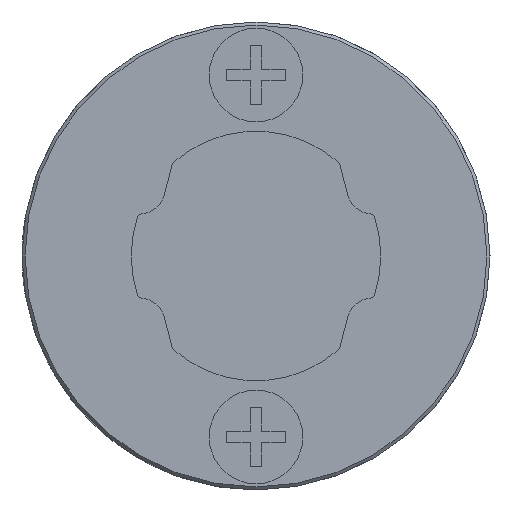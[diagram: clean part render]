
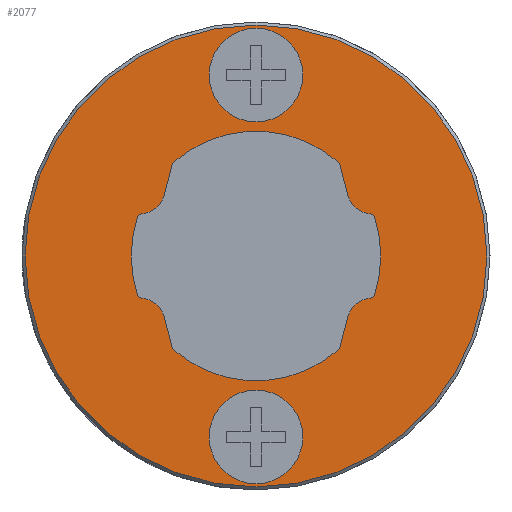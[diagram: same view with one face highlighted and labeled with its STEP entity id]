
A CAD part, left-side view. The second image highlights one B-rep face of the part: STEP entity #2077.
In plain terms, the highlighted planar face has unit normal (-1, 0, 0).
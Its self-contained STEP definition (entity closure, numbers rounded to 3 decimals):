
#50=PLANE('',#2275);
#168=LINE('',#3251,#378);
#169=LINE('',#3263,#379);
#170=LINE('',#3271,#380);
#171=LINE('',#3283,#381);
#378=VECTOR('',#2626,1000.);
#379=VECTOR('',#2637,1000.);
#380=VECTOR('',#2644,1000.);
#381=VECTOR('',#2655,1000.);
#701=ORIENTED_EDGE('',*,*,#1241,.F.);
#702=ORIENTED_EDGE('',*,*,#1242,.F.);
#703=ORIENTED_EDGE('',*,*,#1243,.F.);
#704=ORIENTED_EDGE('',*,*,#1244,.F.);
#705=ORIENTED_EDGE('',*,*,#1245,.F.);
#706=ORIENTED_EDGE('',*,*,#1246,.F.);
#707=ORIENTED_EDGE('',*,*,#1247,.T.);
#708=ORIENTED_EDGE('',*,*,#1248,.F.);
#709=ORIENTED_EDGE('',*,*,#1249,.F.);
#710=ORIENTED_EDGE('',*,*,#1250,.F.);
#711=ORIENTED_EDGE('',*,*,#1251,.T.);
#712=ORIENTED_EDGE('',*,*,#1252,.F.);
#713=ORIENTED_EDGE('',*,*,#1253,.F.);
#714=ORIENTED_EDGE('',*,*,#1254,.F.);
#715=ORIENTED_EDGE('',*,*,#1255,.F.);
#716=ORIENTED_EDGE('',*,*,#1256,.F.);
#717=ORIENTED_EDGE('',*,*,#1257,.T.);
#718=ORIENTED_EDGE('',*,*,#1258,.F.);
#719=ORIENTED_EDGE('',*,*,#1259,.F.);
#720=ORIENTED_EDGE('',*,*,#1260,.F.);
#721=ORIENTED_EDGE('',*,*,#1261,.T.);
#722=ORIENTED_EDGE('',*,*,#1262,.F.);
#723=ORIENTED_EDGE('',*,*,#1263,.F.);
#1241=EDGE_CURVE('',#1521,#1521,#1691,.T.);
#1242=EDGE_CURVE('',#1522,#1522,#1692,.F.);
#1243=EDGE_CURVE('',#1523,#1523,#1693,.F.);
#1244=EDGE_CURVE('',#1524,#1525,#1694,.F.);
#1245=EDGE_CURVE('',#1526,#1524,#1695,.F.);
#1246=EDGE_CURVE('',#1527,#1526,#168,.T.);
#1247=EDGE_CURVE('',#1527,#1528,#1696,.F.);
#1248=EDGE_CURVE('',#1529,#1528,#1697,.F.);
#1249=EDGE_CURVE('',#1530,#1529,#1698,.F.);
#1250=EDGE_CURVE('',#1531,#1530,#1699,.F.);
#1251=EDGE_CURVE('',#1531,#1532,#1700,.F.);
#1252=EDGE_CURVE('',#1533,#1532,#169,.T.);
#1253=EDGE_CURVE('',#1534,#1533,#1701,.F.);
#1254=EDGE_CURVE('',#1535,#1534,#1702,.F.);
#1255=EDGE_CURVE('',#1536,#1535,#1703,.F.);
#1256=EDGE_CURVE('',#1537,#1536,#170,.T.);
#1257=EDGE_CURVE('',#1537,#1538,#1704,.F.);
#1258=EDGE_CURVE('',#1539,#1538,#1705,.F.);
#1259=EDGE_CURVE('',#1540,#1539,#1706,.F.);
#1260=EDGE_CURVE('',#1541,#1540,#1707,.F.);
#1261=EDGE_CURVE('',#1541,#1542,#1708,.F.);
#1262=EDGE_CURVE('',#1543,#1542,#171,.T.);
#1263=EDGE_CURVE('',#1525,#1543,#1709,.F.);
#1521=VERTEX_POINT('',#3241);
#1522=VERTEX_POINT('',#3243);
#1523=VERTEX_POINT('',#3245);
#1524=VERTEX_POINT('',#3247);
#1525=VERTEX_POINT('',#3248);
#1526=VERTEX_POINT('',#3250);
#1527=VERTEX_POINT('',#3252);
#1528=VERTEX_POINT('',#3254);
#1529=VERTEX_POINT('',#3256);
#1530=VERTEX_POINT('',#3258);
#1531=VERTEX_POINT('',#3260);
#1532=VERTEX_POINT('',#3262);
#1533=VERTEX_POINT('',#3264);
#1534=VERTEX_POINT('',#3266);
#1535=VERTEX_POINT('',#3268);
#1536=VERTEX_POINT('',#3270);
#1537=VERTEX_POINT('',#3272);
#1538=VERTEX_POINT('',#3274);
#1539=VERTEX_POINT('',#3276);
#1540=VERTEX_POINT('',#3278);
#1541=VERTEX_POINT('',#3280);
#1542=VERTEX_POINT('',#3282);
#1543=VERTEX_POINT('',#3284);
#1691=CIRCLE('',#2276,7.4);
#1692=CIRCLE('',#2277,1.5);
#1693=CIRCLE('',#2278,1.5);
#1694=CIRCLE('',#2279,4.);
#1695=CIRCLE('',#2280,0.2);
#1696=CIRCLE('',#2281,0.8);
#1697=CIRCLE('',#2282,0.15);
#1698=CIRCLE('',#2283,4.);
#1699=CIRCLE('',#2284,0.15);
#1700=CIRCLE('',#2285,0.8);
#1701=CIRCLE('',#2286,0.2);
#1702=CIRCLE('',#2287,4.);
#1703=CIRCLE('',#2288,0.2);
#1704=CIRCLE('',#2289,0.8);
#1705=CIRCLE('',#2290,0.15);
#1706=CIRCLE('',#2291,4.);
#1707=CIRCLE('',#2292,0.15);
#1708=CIRCLE('',#2293,0.8);
#1709=CIRCLE('',#2294,0.2);
#1750=EDGE_LOOP('',(#701));
#1751=EDGE_LOOP('',(#702));
#1752=EDGE_LOOP('',(#703));
#1753=EDGE_LOOP('',(#704,#705,#706,#707,#708,#709,#710,#711,#712,#713,#714,
#715,#716,#717,#718,#719,#720,#721,#722,#723));
#1894=FACE_BOUND('',#1750,.T.);
#1895=FACE_BOUND('',#1751,.T.);
#1896=FACE_BOUND('',#1752,.T.);
#1897=FACE_BOUND('',#1753,.T.);
#2077=ADVANCED_FACE('',(#1894,#1895,#1896,#1897),#50,.F.);
#2275=AXIS2_PLACEMENT_3D('',#3239,#2614,#2615);
#2276=AXIS2_PLACEMENT_3D('',#3240,#2616,#2617);
#2277=AXIS2_PLACEMENT_3D('',#3242,#2618,#2619);
#2278=AXIS2_PLACEMENT_3D('',#3244,#2620,#2621);
#2279=AXIS2_PLACEMENT_3D('',#3246,#2622,#2623);
#2280=AXIS2_PLACEMENT_3D('',#3249,#2624,#2625);
#2281=AXIS2_PLACEMENT_3D('',#3253,#2627,#2628);
#2282=AXIS2_PLACEMENT_3D('',#3255,#2629,#2630);
#2283=AXIS2_PLACEMENT_3D('',#3257,#2631,#2632);
#2284=AXIS2_PLACEMENT_3D('',#3259,#2633,#2634);
#2285=AXIS2_PLACEMENT_3D('',#3261,#2635,#2636);
#2286=AXIS2_PLACEMENT_3D('',#3265,#2638,#2639);
#2287=AXIS2_PLACEMENT_3D('',#3267,#2640,#2641);
#2288=AXIS2_PLACEMENT_3D('',#3269,#2642,#2643);
#2289=AXIS2_PLACEMENT_3D('',#3273,#2645,#2646);
#2290=AXIS2_PLACEMENT_3D('',#3275,#2647,#2648);
#2291=AXIS2_PLACEMENT_3D('',#3277,#2649,#2650);
#2292=AXIS2_PLACEMENT_3D('',#3279,#2651,#2652);
#2293=AXIS2_PLACEMENT_3D('',#3281,#2653,#2654);
#2294=AXIS2_PLACEMENT_3D('',#3285,#2656,#2657);
#2614=DIRECTION('',(1.,0.,0.));
#2615=DIRECTION('',(0.,0.,-1.));
#2616=DIRECTION('',(1.,0.,0.));
#2617=DIRECTION('',(0.,0.,-1.));
#2618=DIRECTION('',(1.,0.,0.));
#2619=DIRECTION('',(0.,0.,-1.));
#2620=DIRECTION('',(1.,0.,0.));
#2621=DIRECTION('',(0.,0.,-1.));
#2622=DIRECTION('',(1.,0.,0.));
#2623=DIRECTION('',(0.,0.,-1.));
#2624=DIRECTION('',(1.,0.,0.));
#2625=DIRECTION('',(0.,0.,-1.));
#2626=DIRECTION('',(0.,0.253,0.967));
#2627=DIRECTION('',(1.,0.,0.));
#2628=DIRECTION('',(0.,0.,-1.));
#2629=DIRECTION('',(1.,0.,0.));
#2630=DIRECTION('',(0.,0.,-1.));
#2631=DIRECTION('',(1.,0.,0.));
#2632=DIRECTION('',(0.,0.,-1.));
#2633=DIRECTION('',(1.,0.,0.));
#2634=DIRECTION('',(0.,0.,-1.));
#2635=DIRECTION('',(1.,0.,0.));
#2636=DIRECTION('',(0.,0.,-1.));
#2637=DIRECTION('',(0.,-0.253,0.967));
#2638=DIRECTION('',(1.,0.,0.));
#2639=DIRECTION('',(0.,0.,-1.));
#2640=DIRECTION('',(1.,0.,0.));
#2641=DIRECTION('',(0.,0.,-1.));
#2642=DIRECTION('',(1.,0.,0.));
#2643=DIRECTION('',(0.,0.,-1.));
#2644=DIRECTION('',(0.,-0.253,-0.967));
#2645=DIRECTION('',(1.,0.,0.));
#2646=DIRECTION('',(0.,0.,-1.));
#2647=DIRECTION('',(1.,0.,0.));
#2648=DIRECTION('',(0.,0.,-1.));
#2649=DIRECTION('',(1.,0.,0.));
#2650=DIRECTION('',(0.,0.,-1.));
#2651=DIRECTION('',(1.,0.,0.));
#2652=DIRECTION('',(0.,0.,-1.));
#2653=DIRECTION('',(1.,0.,0.));
#2654=DIRECTION('',(0.,0.,-1.));
#2655=DIRECTION('',(0.,0.253,-0.967));
#2656=DIRECTION('',(1.,0.,0.));
#2657=DIRECTION('',(0.,0.,-1.));
#3239=CARTESIAN_POINT('',(-11.,0.,0.));
#3240=CARTESIAN_POINT('',(-11.,0.,0.));
#3241=CARTESIAN_POINT('',(-11.,0.,-7.4));
#3242=CARTESIAN_POINT('',(-11.,0.,-5.8));
#3243=CARTESIAN_POINT('',(-11.,0.,-7.3));
#3244=CARTESIAN_POINT('',(-11.,0.,5.8));
#3245=CARTESIAN_POINT('',(-11.,0.,4.3));
#3246=CARTESIAN_POINT('',(-11.,0.,0.));
#3247=CARTESIAN_POINT('',(-11.,-2.637,3.008));
#3248=CARTESIAN_POINT('',(-11.,2.637,3.008));
#3249=CARTESIAN_POINT('',(-11.,-2.5,2.862));
#3250=CARTESIAN_POINT('',(-11.,-2.693,2.913));
#3251=CARTESIAN_POINT('',(-11.,-3.234,0.846));
#3252=CARTESIAN_POINT('',(-11.,-2.946,1.947));
#3253=CARTESIAN_POINT('',(-11.,-3.72,2.15));
#3254=CARTESIAN_POINT('',(-11.,-3.667,1.352));
#3255=CARTESIAN_POINT('',(-11.,-3.658,1.202));
#3256=CARTESIAN_POINT('',(-11.,-3.8,1.249));
#3257=CARTESIAN_POINT('',(-11.,0.,0.));
#3258=CARTESIAN_POINT('',(-11.,-3.8,-1.249));
#3259=CARTESIAN_POINT('',(-11.,-3.658,-1.202));
#3260=CARTESIAN_POINT('',(-11.,-3.667,-1.352));
#3261=CARTESIAN_POINT('',(-11.,-3.72,-2.15));
#3262=CARTESIAN_POINT('',(-11.,-2.946,-1.947));
#3263=CARTESIAN_POINT('',(-11.,-3.234,-0.846));
#3264=CARTESIAN_POINT('',(-11.,-2.693,-2.913));
#3265=CARTESIAN_POINT('',(-11.,-2.5,-2.862));
#3266=CARTESIAN_POINT('',(-11.,-2.637,-3.008));
#3267=CARTESIAN_POINT('',(-11.,0.,0.));
#3268=CARTESIAN_POINT('',(-11.,2.637,-3.008));
#3269=CARTESIAN_POINT('',(-11.,2.5,-2.862));
#3270=CARTESIAN_POINT('',(-11.,2.693,-2.913));
#3271=CARTESIAN_POINT('',(-11.,3.234,-0.846));
#3272=CARTESIAN_POINT('',(-11.,2.946,-1.947));
#3273=CARTESIAN_POINT('',(-11.,3.72,-2.15));
#3274=CARTESIAN_POINT('',(-11.,3.667,-1.352));
#3275=CARTESIAN_POINT('',(-11.,3.658,-1.202));
#3276=CARTESIAN_POINT('',(-11.,3.8,-1.249));
#3277=CARTESIAN_POINT('',(-11.,0.,0.));
#3278=CARTESIAN_POINT('',(-11.,3.8,1.249));
#3279=CARTESIAN_POINT('',(-11.,3.658,1.202));
#3280=CARTESIAN_POINT('',(-11.,3.667,1.352));
#3281=CARTESIAN_POINT('',(-11.,3.72,2.15));
#3282=CARTESIAN_POINT('',(-11.,2.946,1.947));
#3283=CARTESIAN_POINT('',(-11.,3.234,0.846));
#3284=CARTESIAN_POINT('',(-11.,2.693,2.913));
#3285=CARTESIAN_POINT('',(-11.,2.5,2.862));
